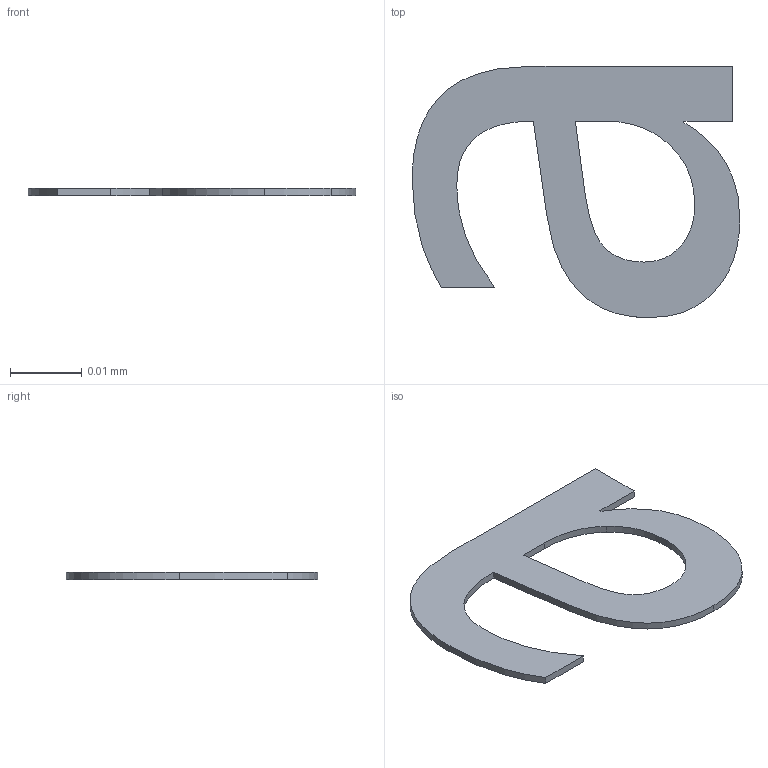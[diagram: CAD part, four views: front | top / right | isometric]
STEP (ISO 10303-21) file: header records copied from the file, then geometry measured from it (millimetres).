
FILE_DESCRIPTION(/* description */ ('STEP AP242 Edition 2','CAx-IF Rec.Pracs.---Representation and Presentation of Product Manufacturing Information (PMI)---4.0---2014-10-13','CAx-IF Rec.Pracs.---3D Tessellated Geometry---0.4---2014-09-14','2;1','CAx-IF Rec.Pracs.---User Defined Attributes---1.5---2016-08-15'),/* implementation_level */ '2;1');
FILE_NAME(/* name */ 'Assembly 1 - SOT-23-3_L2.9-W1.3-P0.95-LS2.4-BR~SOT-23-3P_L2.9-W1.3-H1.0-LS2.4-P0.95~nxQB (13)',/* time_stamp */ '2026-04-02T09:55:23Z',/* author */ (''),/* organization */ (''),/* preprocessor_version */ 'ST-DEVELOPER v20',/* originating_system */ 'ONSHAPE BY PTC INC, 1.212',/* authorisation */ ' ');
FILE_SCHEMA (('AP242_MANAGED_MODEL_BASED_3D_ENGINEERING_MIM_LF { 1 0 10303 442 3 1 4 }'));
Length unit declared in the file: metre
Products named in the file (1): SOT-23-3_L2.9-W1.3-P0.95-LS2.4-BR~SOT-23-3P_L2.9-W1.3-H1.0-LS2.4-P0.9
5~nxQB
Bounding box: 0.05 x 0.03 x 0 mm (x, y, z)
Volume: 0 mm3; surface area: 0 mm2
Topology: 1 solids, 1 shells, 24 faces, 66 edges, 44 vertices
Faces by surface type: bspline 14, plane 10
Entity records: 1029 total; most frequent: CARTESIAN_POINT 317, ORIENTED_EDGE 132, EDGE_CURVE 66, DIRECTION 60, VERTEX_POINT 44, LINE 38, VECTOR 38, B_SPLINE_CURVE_WITH_KNOTS 28
